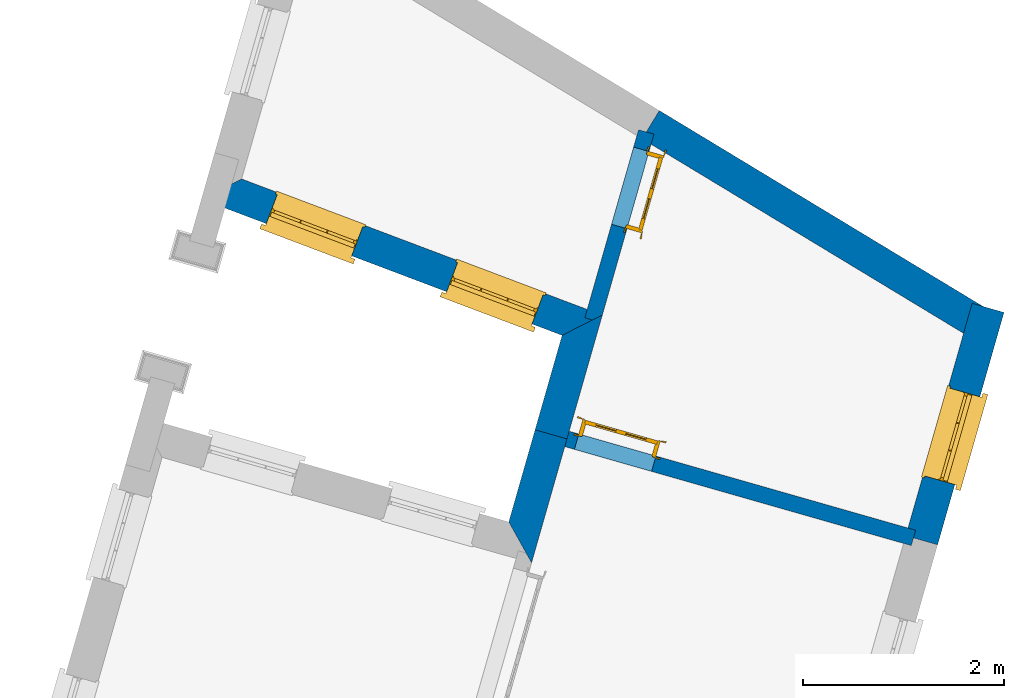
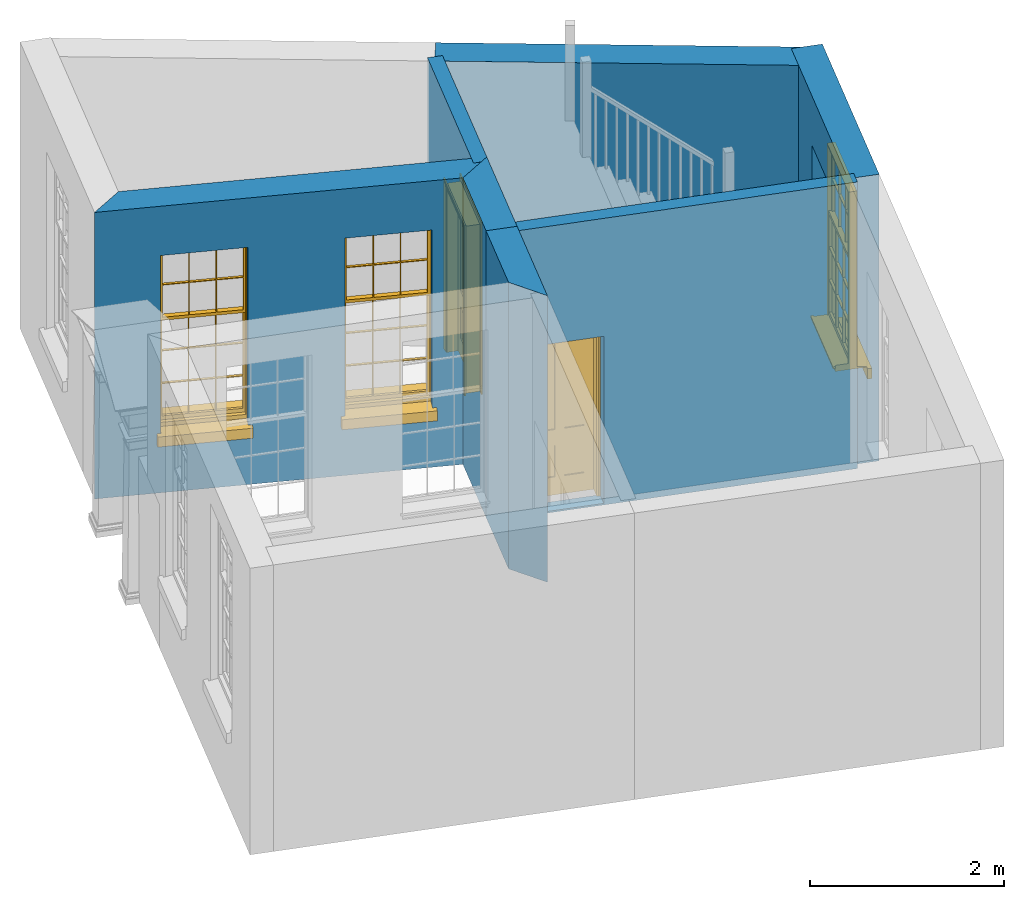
# One storey, part 5 of 6: 7 walls, 3 windows, 2 doors, 5 openings.
"""IFC4 building model written with IfcOpenShell, lengths in metres."""

import ifcopenshell
import ifcopenshell.guid

model = None  # the IFC model being written
_history = None  # IfcOwnerHistory: only IFC2X3 demands one
_inside = {}  # id of a spatial element -> (the spatial element, [elements in it])
_under = {}  # id of a project, library or spatial element -> (it, [spatial elements below it])
_declared = {}  # id of a project -> (the project, [libraries it declares])
_typed = {}  # id of a type object -> (the type object, [elements of that type])
_made_of = {}  # id of a material, layer set ... -> (it, [elements and type objects made of it])


def new_model(schema):
    """Start an empty IFC model of exactly this schema.

    Asked for "IFC4X3", IfcOpenShell would pick the latest addendum, in which some entities
    have other attributes; the version numbers below select the first issue.
    IFC2X3 requires an IfcOwnerHistory on every rooted entity: one is made here for all.
    """
    global model, _history
    if schema == "IFC4X3":
        model = ifcopenshell.file(schema_version=(4, 3, 0, 0))
    else:
        model = ifcopenshell.file(schema=schema)
    _inside.clear()
    _under.clear()
    _declared.clear()
    _typed.clear()
    _made_of.clear()
    _history = None
    if model.schema == "IFC2X3":
        org = make("IfcOrganization", Name="unknown")
        user = make(
            "IfcPersonAndOrganization",
            ThePerson=make("IfcPerson", FamilyName="unknown"),
            TheOrganization=org,
        )
        app = make(
            "IfcApplication",
            ApplicationDeveloper=org,
            Version="unknown",
            ApplicationFullName="unknown",
            ApplicationIdentifier="unknown",
        )
        _history = make(
            "IfcOwnerHistory",
            OwningUser=user,
            OwningApplication=app,
            ChangeAction="ADDED",
            CreationDate=0,
        )
    return model


def make(cls, **values):
    """One entity of the class cls with the attributes given. An attribute that is None is left unset."""
    return model.create_entity(
        cls, **{name: value for name, value in values.items() if value is not None}
    )


def rooted(cls, **values):
    """An entity with a GlobalId (a new one), such as an element, a storey or a relation."""
    return make(cls, GlobalId=ifcopenshell.guid.new(), OwnerHistory=_history, **values)


def si_unit(unit_type, name, prefix=None):
    """IfcSIUnit, for example si_unit("LENGTHUNIT", "METRE", prefix="MILLI")."""
    return make("IfcSIUnit", UnitType=unit_type, Prefix=prefix, Name=name)


def assignment(units):
    """IfcUnitAssignment: the units of a project."""
    return None if units is None else make("IfcUnitAssignment", Units=units)


def point(xyz):
    """IfcCartesianPoint."""
    return None if xyz is None else make("IfcCartesianPoint", Coordinates=xyz)


def direction(xyz):
    """IfcDirection."""
    return None if xyz is None else make("IfcDirection", DirectionRatios=xyz)


def frame(location, z_axis=None, x_axis=None):
    """IfcAxis2Placement3D, a coordinate frame: its origin and axes. An axis left out is left unset."""
    return make(
        "IfcAxis2Placement3D",
        Location=point(location),
        Axis=direction(z_axis),
        RefDirection=direction(x_axis),
    )


def origin():
    """The frame at (0, 0, 0) with its axes left unset."""
    return frame((0.0, 0.0, 0.0))


def origin_with_axes():
    """The frame at (0, 0, 0) with the z axis (0, 0, 1) and the x axis (1, 0, 0) written out."""
    return frame((0.0, 0.0, 0.0), z_axis=(0.0, 0.0, 1.0), x_axis=(1.0, 0.0, 0.0))


def place(relative_to, where):
    """IfcLocalPlacement: puts the frame where relative to a parent placement (None: the world)."""
    return make(
        "IfcLocalPlacement", PlacementRelTo=relative_to, RelativePlacement=where
    )


def context(
    kind, dimensions, precision=None, world=None, true_north=None, identifier=None
):
    """IfcGeometricRepresentationContext, for example the 3D "Model" context."""
    return make(
        "IfcGeometricRepresentationContext",
        ContextIdentifier=identifier,
        ContextType=kind,
        CoordinateSpaceDimension=dimensions,
        Precision=precision,
        WorldCoordinateSystem=world,
        TrueNorth=true_north,
    )


def subcontext(parent, identifier, kind, view, scale=None):
    """IfcGeometricRepresentationSubContext, for example "Body" below "Model"."""
    return make(
        "IfcGeometricRepresentationSubContext",
        ContextIdentifier=identifier,
        ContextType=kind,
        ParentContext=parent,
        TargetScale=scale,
        TargetView=view,
    )


def project(units=None, contexts=None):
    """IfcProject with its units and contexts."""
    return rooted(
        "IfcProject",
        Name="project",
        RepresentationContexts=contexts,
        UnitsInContext=assignment(units),
    )


def spatial(cls, under=None, at=None, **own):
    """A site, building, storey or space (cls), placed at a placement, below another one or the project."""
    s = rooted(cls, ObjectPlacement=at, **own)
    if under is not None:
        _under.setdefault(under.id(), (under, []))[1].append(s)
    return s


def polyline(points):
    """IfcPolyline through the points."""
    return make("IfcPolyline", Points=[point(p) for p in points])


def outline(outer, holes=None, kind="AREA"):
    """IfcArbitraryClosedProfileDef: a profile drawn as a closed curve; with holes, ...WithVoids."""
    if holes is None:
        return make("IfcArbitraryClosedProfileDef", ProfileType=kind, OuterCurve=outer)
    return make(
        "IfcArbitraryProfileDefWithVoids",
        ProfileType=kind,
        OuterCurve=outer,
        InnerCurves=holes,
    )


def extrude(swept, where, along, depth):
    """IfcExtrudedAreaSolid: the profile swept, set in the frame where, extruded along a direction by depth."""
    return make(
        "IfcExtrudedAreaSolid",
        SweptArea=swept,
        Position=where,
        ExtrudedDirection=direction(along),
        Depth=depth,
    )


def faces_of(points, faces, orient=None, outer=None):
    """IfcFace entities. A face is a list of loops; a loop is a list of indices into points, from 0.

    orient and outer hold one flag for each loop. By default every Orientation is true, the
    first loop of a face is its IfcFaceOuterBound and the others are IfcFaceBound.
    """
    made = []
    for i, loops in enumerate(faces):
        bounds = []
        for j, loop in enumerate(loops):
            is_outer = j == 0 if outer is None else outer[i][j]
            bounds.append(
                make(
                    "IfcFaceOuterBound" if is_outer else "IfcFaceBound",
                    Bound=make("IfcPolyLoop", Polygon=[points[k] for k in loop]),
                    Orientation=True if orient is None else orient[i][j],
                )
            )
        made.append(make("IfcFace", Bounds=bounds))
    return made


def faceted_brep(points, faces, orient=None, outer=None, voids=None):
    """IfcFacetedBrep: a solid bounded by flat faces; with voids (closed shells), ...WithVoids."""
    shared = [point(p) for p in points]
    hull = make("IfcClosedShell", CfsFaces=faces_of(shared, faces, orient, outer))
    if voids is None:
        return make("IfcFacetedBrep", Outer=hull)
    return make(
        "IfcFacetedBrepWithVoids",
        Outer=hull,
        Voids=[
            make(cls, CfsFaces=faces_of(shared, fs, o, b)) for cls, fs, o, b in voids
        ],
    )


def shape(context_of_items, identifier, shape_type, items):
    """IfcShapeRepresentation: the items that make up one representation, for example the "Body"."""
    return make(
        "IfcShapeRepresentation",
        ContextOfItems=context_of_items,
        RepresentationIdentifier=identifier,
        RepresentationType=shape_type,
        Items=items,
    )


def source(mapping_origin, context_of_items, identifier, shape_type, items):
    """IfcRepresentationMap: a shape defined once, which mapped items show again and again."""
    return make(
        "IfcRepresentationMap",
        MappingOrigin=mapping_origin,
        MappedRepresentation=shape(context_of_items, identifier, shape_type, items),
    )


def transform(
    local_origin,
    x_axis=None,
    y_axis=None,
    z_axis=None,
    scale=None,
    scale2=None,
    scale3=None,
    uniform=True,
):
    """IfcCartesianTransformationOperator3D, or its non-uniform kind. x_axis, y_axis, z_axis: its Axis1, 2, 3."""
    if uniform:
        return make(
            "IfcCartesianTransformationOperator3D",
            Axis1=direction(x_axis),
            Axis2=direction(y_axis),
            LocalOrigin=point(local_origin),
            Scale=scale,
            Axis3=direction(z_axis),
        )
    return make(
        "IfcCartesianTransformationOperator3DnonUniform",
        Axis1=direction(x_axis),
        Axis2=direction(y_axis),
        LocalOrigin=point(local_origin),
        Scale=scale,
        Axis3=direction(z_axis),
        Scale2=scale2,
        Scale3=scale3,
    )


def mapped(mapping_source, mapping_target):
    """IfcMappedItem: shows the shape of a source again, moved by a transform."""
    return make(
        "IfcMappedItem", MappingSource=mapping_source, MappingTarget=mapping_target
    )


def material(Name=None, Category=None):
    """IfcMaterial."""
    return make("IfcMaterial", Name=Name, Category=Category)


def layer(
    of_material, thickness, ventilated=None, Name=None, Category=None, Priority=None
):
    """IfcMaterialLayer: one layer of a wall or slab, of a material (None: an air gap)."""
    return make(
        "IfcMaterialLayer",
        Material=of_material,
        LayerThickness=thickness,
        IsVentilated=ventilated,
        Name=Name,
        Category=Category,
        Priority=Priority,
    )


def layer_set(layers, Name=None):
    """IfcMaterialLayerSet."""
    return make("IfcMaterialLayerSet", MaterialLayers=layers, LayerSetName=Name)


def layer_usage(for_layer_set, set_direction, sense, offset, extent=None):
    """IfcMaterialLayerSetUsage: how a layer set lies in its element."""
    return make(
        "IfcMaterialLayerSetUsage",
        ForLayerSet=for_layer_set,
        LayerSetDirection=set_direction,
        DirectionSense=sense,
        OffsetFromReferenceLine=offset,
        ReferenceExtent=extent,
    )


def made_of(thing, what):
    """Note that an element or type object is made of a material, layer set ...; save() writes the relation."""
    if what is not None:
        _made_of.setdefault(what.id(), (what, []))[1].append(thing)
    return thing


def type_object(cls, material=None, **own):
    """A type object (cls), such as IfcWallType, which elements share."""
    return made_of(rooted(cls, **own), material)


def type_shapes(of_type, sources):
    """Give a type object the sources (RepresentationMaps) that its elements show as mapped items."""
    of_type.RepresentationMaps = sources


def element(
    cls,
    number,
    at=None,
    inside=None,
    cuts=None,
    type_object=None,
    material=None,
    context=None,
    identifier="Body",
    shape_type=None,
    held_by="IfcProductDefinitionShape",
    body=None,
    shapes=None,
    **own,
):
    """One element of the class cls, such as IfcWall. Its Tag is "e" and its number.

    at: its placement. inside: the storey or other place that contains it. cuts: it is an
    opening in that element (IfcRelVoidsElement). A single representation is given by context,
    identifier, shape_type and body (its items); several are given by shapes. held_by: the class
    of the entity that holds the representations. save() writes the other relations.
    """
    e = rooted(cls, Tag="e%d" % number, ObjectPlacement=at, **own)
    if body is not None:
        shapes = [shape(context, identifier, shape_type, body)]
    if shapes is not None:
        e.Representation = make(held_by, Representations=shapes)
    if inside is not None:
        _inside.setdefault(inside.id(), (inside, []))[1].append(e)
    if cuts is not None:
        rooted(
            "IfcRelVoidsElement", RelatingBuildingElement=cuts, RelatedOpeningElement=e
        )
    if type_object is not None:
        _typed.setdefault(type_object.id(), (type_object, []))[1].append(e)
    return made_of(e, material)


def fill(opening, filler):
    """IfcRelFillsElement: the door or window that sits in an opening."""
    return rooted(
        "IfcRelFillsElement",
        RelatingOpeningElement=opening,
        RelatedBuildingElement=filler,
    )


def aggregate(whole, parts):
    """IfcRelAggregates: a whole, such as a stair, and the parts it consists of."""
    return rooted("IfcRelAggregates", RelatingObject=whole, RelatedObjects=parts)


def save(model, path):
    """Write the relations noted so far, then the file.

    IfcRelAggregates (storeys below a building ...), IfcRelContainedInSpatialStructure (elements
    in a storey), IfcRelDefinesByType, IfcRelAssociatesMaterial and IfcRelDeclares: one each for
    every whole, place, type object, material and project.
    """
    for whole, parts in _under.values():
        aggregate(whole, parts)
    for where, things in _inside.values():
        rooted(
            "IfcRelContainedInSpatialStructure",
            RelatedElements=things,
            RelatingStructure=where,
        )
    for kind, things in _typed.values():
        rooted("IfcRelDefinesByType", RelatedObjects=things, RelatingType=kind)
    for what, things in _made_of.values():
        rooted("IfcRelAssociatesMaterial", RelatedObjects=things, RelatingMaterial=what)
    for by, libraries in _declared.values():
        rooted("IfcRelDeclares", RelatingContext=by, RelatedDefinitions=libraries)
    model.write(path)


model = new_model("IFC4")

# Units and contexts
model_context = context("Model", 3, world=origin_with_axes())
body_context = subcontext(model_context, "Body", "Model", "MODEL_VIEW")
ifc_project = project(units=[si_unit("PLANEANGLEUNIT", "RADIAN"), si_unit("MASSUNIT", "GRAM", prefix="KILO"), si_unit("FORCEUNIT", "NEWTON", prefix="KILO"), si_unit("LENGTHUNIT", "METRE"), si_unit("AREAUNIT", "SQUARE_METRE"), si_unit("VOLUMEUNIT", "CUBIC_METRE")], contexts=[model_context, model_context])

# Sites, building, storey
site_1_placement = place(None, origin_with_axes())
site_1 = spatial("IfcSite", under=ifc_project, at=site_1_placement, Name="Tamar")
site_2_placement = place(site_1_placement, origin_with_axes())
site_2 = spatial("IfcSite", under=site_1, at=site_2_placement, Name="Site plot-19", CompositionType="ELEMENT")
building_placement = place(None, origin_with_axes())
building = spatial("IfcBuilding", under=site_2, at=building_placement, Name="Building plot-19", CompositionType="ELEMENT")
storey_placement = place(None, frame((0.0, 0.0, 26.8), z_axis=(0.0, 0.0, 1.0), x_axis=(1.0, 0.0, 0.0)))
storey = spatial("IfcBuildingStorey", under=building, at=storey_placement, Name="plot-19 0", CompositionType="ELEMENT", Elevation=26.8)

# Wall, openings, windows
ifc_material_1 = material(Name="Masonry")
ifc_layer_1 = layer(ifc_material_1, 0.33, ventilated=False)
ifc_layer_set_1 = layer_set([ifc_layer_1], Name="exterior_0.08_0.25")
ifc_layer_usage_1 = layer_usage(ifc_layer_set_1, "AXIS2", "POSITIVE", -0.25)
wall_type_1 = type_object("IfcWallType", Name="exterior_0.08_0.25", PredefinedType="SOLIDWALL", material=ifc_layer_set_1)
wall_1_placement = place(storey_placement, frame((277.125139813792, 301.7223765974, 0.0), z_axis=(0.0, 0.0, 1.0), x_axis=(0.935518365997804, -0.353278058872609, 0.0)))
wall_1 = element("IfcWall", 1, at=wall_1_placement, inside=storey, type_object=wall_type_1, material=ifc_layer_usage_1, Name="exterior", context=body_context, shape_type="SweptSolid", body=[
    extrude(outline(polyline([(0.0736260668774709, 0.0800000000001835), (-0.230081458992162, -0.249999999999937), (3.61187362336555, -0.249999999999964), (3.91558114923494, 0.0800000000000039), (0.0736260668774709, 0.0800000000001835)])), origin_with_axes(), (0.0, 0.0, 1.0), 3.6),
])
opening_1_placement = place(wall_1_placement, frame((0.460977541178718, 0.0, 0.75)))
opening_1 = element("IfcOpeningElement", 2, at=opening_1_placement, cuts=wall_1, Name="My Opening", ObjectType="Opening", context=body_context, shape_type="SweptSolid", body=[
    extrude(outline(polyline([(0.0, -0.269999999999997), (0.91000000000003, -0.269999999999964), (0.910000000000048, 1.09999999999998), (1.83186799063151e-14, 1.09999999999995), (0.0, -0.269999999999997)])), origin_with_axes(), (0.0, 0.0, 1.0), 2.23),
])
opening_2_placement = place(wall_1_placement, frame((2.38195508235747, 0.0, 0.75)))
opening_2 = element("IfcOpeningElement", 3, at=opening_2_placement, cuts=wall_1, Name="My Opening", ObjectType="Opening", context=body_context, shape_type="SweptSolid", body=[
    extrude(outline(polyline([(0.0, -0.26999999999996), (0.909999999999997, -0.270000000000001), (0.910000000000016, 1.09999999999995), (1.86517468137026e-14, 1.09999999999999), (0.0, -0.26999999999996)])), origin_with_axes(), (0.0, 0.0, 1.0), 2.23),
])
window_type = type_object("IfcWindowType", Name="sash_big_taller", PartitioningType="DOUBLE_PANEL_HORIZONTAL", PredefinedType="NOTDEFINED")
shared_shape_1 = source(origin(), body_context, "Body", "Brep", [
    faceted_brep([(0.033125, 0.145, 1.385209), (0.01, 0.145, 1.385209), (0.033125, 0.145, 1.786042), (0.876875, 0.145, 1.385209), (0.876875, 0.145, 1.786042), (0.9, 0.145, 1.385209), (0.876875, 0.145, 1.796042), (0.876875, 0.145, 2.196875), (0.9, 0.145, 2.22), (0.033125, 0.145, 2.196875), (0.033125, 0.145, 1.796042), (0.01, 0.145, 2.22), (0.876875, 0.115, 1.786042), (0.876875, 0.115, 1.385209), (0.9, 0.115, 1.347084), (0.033125, 0.115, 2.196875), (0.01, 0.115, 2.22), (0.033125, 0.115, 1.796042), (0.01, 0.115, 1.347084), (0.033125, 0.115, 1.385209), (0.033125, 0.115, 1.786042), (0.876875, 0.115, 2.196875), (0.876875, 0.115, 1.796042), (0.9, 0.115, 2.22), (0.033125, 0.145, 1.347084), (0.01, 0.145, 1.347084), (0.033125, 0.145, 0.94625), (0.876875, 0.145, 1.347084), (0.876875, 0.145, 0.94625), (0.9, 0.145, 1.347084), (0.876875, 0.145, 0.52625), (0.876875, 0.145, 0.125417), (0.9, 0.145, 0.077167), (0.033125, 0.145, 0.125417), (0.033125, 0.145, 0.52625), (0.01, 0.145, 0.077167), (-0.0425, 0.0, 0.01), (-0.0425, -0.05, 0.001667), (0.0, 0.0, 0.01), (0.9525, 0.0, 0.01), (0.91, 0.0, 0.01), (0.9525, -0.05, 0.001667), (-0.02, 0.33, 0.077167), (0.0, 0.33, 0.077167), (-0.02, 0.36, 0.077167), (0.0, 0.19, 0.077167), (0.01, 0.19, 0.077167), (0.91, 0.19, 0.077167), (0.91, 0.33, 0.077167), (0.9, 0.19, 0.077167), (0.93, 0.33, 0.077167), (0.93, 0.36, 0.077167), (0.01, 0.175, 1.385209), (0.9, 0.175, 1.385209), (0.876875, 0.175, 0.125417), (0.876875, 0.175, 0.52625), (0.9, 0.175, 0.077167), (0.876875, 0.175, 0.94625), (0.876875, 0.175, 1.347084), (0.033125, 0.175, 0.125417), (0.01, 0.175, 0.077167), (0.033125, 0.175, 0.52625), (0.033125, 0.175, 1.347084), (0.033125, 0.175, 0.94625), (-0.02, 0.33, 0.052167), (-0.02, 0.36, 0.052167), (0.93, 0.36, 0.052167), (0.93, 0.33, 0.052167), (0.91, 0.33, 0.052167), (0.0, 0.33, 0.052167), (0.91, 0.1, 0.026667), (0.0, 0.1, 0.026667), (-0.0425, -0.05, -0.123333), (0.9525, -0.05, -0.123333), (-0.0425, 0.0, -0.123333), (0.9525, 0.0, -0.123333), (0.01, 0.19, 2.22), (0.9, 0.19, 2.22), (0.0, 0.19, 2.23), (0.91, 0.19, 2.23), (0.01, 0.1, 0.077167), (0.9, 0.1, 0.077167), (0.592292, 0.145, 0.125417), (0.592292, 0.175, 0.125417), (0.317708, 0.175, 0.125417), (0.317708, 0.145, 0.125417), (0.592292, 0.145, 0.53625), (0.317708, 0.145, 0.53625), (0.317708, 0.145, 0.52625), (0.592292, 0.145, 0.52625), (0.592292, 0.175, 0.53625), (0.317708, 0.175, 0.53625), (0.592292, 0.115, 1.796042), (0.592292, 0.145, 1.796042), (0.317708, 0.145, 1.796042), (0.317708, 0.115, 1.796042), (0.317708, 0.115, 1.786042), (0.592292, 0.115, 1.786042), (0.317708, 0.145, 1.786042), (0.592292, 0.145, 1.786042), (0.602292, 0.115, 1.786042), (0.592292, 0.115, 1.385209), (0.602292, 0.115, 1.385209), (0.602292, 0.145, 1.385209), (0.592292, 0.145, 1.385209), (0.602292, 0.145, 1.786042), (0.876875, 0.145, 0.53625), (0.876875, 0.175, 0.53625), (0.602292, 0.175, 0.53625), (0.602292, 0.145, 0.53625), (0.317708, 0.175, 0.52625), (0.307708, 0.175, 0.125417), (0.307708, 0.175, 0.52625), (0.602292, 0.175, 0.52625), (0.602292, 0.175, 0.125417), (0.592292, 0.175, 0.52625), (0.307708, 0.175, 0.53625), (0.033125, 0.175, 0.53625), (0.317708, 0.175, 1.347084), (0.317708, 0.175, 0.94625), (0.307708, 0.175, 0.94625), (0.307708, 0.175, 1.347084), (0.602292, 0.175, 1.347084), (0.602292, 0.175, 0.94625), (0.592292, 0.175, 0.94625), (0.592292, 0.175, 1.347084), (0.307708, 0.145, 0.52625), (0.307708, 0.145, 0.125417), (0.307708, 0.145, 0.53625), (0.033125, 0.145, 0.53625), (0.307708, 0.145, 1.347084), (0.307708, 0.145, 0.94625), (0.592292, 0.145, 1.347084), (0.592292, 0.145, 0.94625), (0.317708, 0.145, 0.94625), (0.317708, 0.145, 1.347084), (0.602292, 0.145, 0.94625), (0.602292, 0.145, 1.347084), (0.602292, 0.145, 0.52625), (0.602292, 0.145, 0.125417), (0.307708, 0.115, 1.796042), (0.307708, 0.115, 1.786042), (0.307708, 0.115, 1.385209), (0.317708, 0.115, 1.385209), (0.317708, 0.115, 2.196875), (0.307708, 0.115, 2.196875), (0.602292, 0.115, 2.196875), (0.592292, 0.115, 2.196875), (0.602292, 0.115, 1.796042), (0.602292, 0.145, 1.796042), (0.307708, 0.145, 1.796042), (0.307708, 0.145, 2.196875), (0.317708, 0.145, 2.196875), (0.592292, 0.145, 2.196875), (0.602292, 0.145, 2.196875), (0.307708, 0.145, 1.786042), (0.317708, 0.145, 1.385209), (0.307708, 0.145, 1.385209), (0.876875, 0.175, 0.93625), (0.033125, 0.175, 0.93625), (0.033125, 0.145, 0.93625), (0.876875, 0.145, 0.93625), (0.91, 0.1, 2.23), (0.9, 0.1, 2.22), (0.01, 0.1, 2.22), (0.0, 0.1, 2.23), (0.91, 0.0, 0.0), (0.0, 0.0, 0.0), (0.91, 0.33, 0.0), (0.0, 0.33, 0.0), (0.317708, 0.145, 0.93625), (0.592292, 0.145, 0.93625), (0.317708, 0.175, 0.93625), (0.307708, 0.175, 0.93625), (0.602292, 0.175, 0.93625), (0.592292, 0.175, 0.93625), (0.307708, 0.145, 0.93625), (0.602292, 0.145, 0.93625)], [[[0, 1, 2]], [[3, 4, 5]], [[6, 7, 8]], [[9, 10, 11]], [[12, 13, 14]], [[15, 16, 17]], [[18, 19, 20]], [[21, 22, 23]], [[24, 25, 26]], [[27, 28, 29]], [[30, 31, 32]], [[33, 34, 35]], [[14, 27, 29]], [[25, 24, 18]], [[36, 37, 38]], [[39, 40, 41]], [[42, 43, 44]], [[45, 46, 43]], [[47, 48, 49]], [[50, 51, 48]], [[1, 0, 52]], [[5, 53, 3]], [[54, 55, 56]], [[57, 58, 53]], [[59, 60, 61]], [[62, 63, 52]], [[48, 43, 46, 49]], [[51, 44, 43, 48]], [[64, 42, 44, 65]], [[65, 44, 51, 66]], [[66, 51, 50, 67]], [[65, 66, 68, 69]], [[60, 56, 49, 46]], [[70, 71, 38, 40]], [[37, 41, 40, 38]], [[37, 72, 73, 41]], [[74, 75, 73, 72]], [[8, 11, 76, 77]], [[76, 78, 79, 77]], [[32, 35, 80, 81]], [[81, 80, 71, 70]], [[82, 83, 84, 85]], [[86, 87, 88, 89]], [[86, 90, 91, 87]], [[92, 93, 94, 95]], [[92, 95, 96, 97]], [[96, 98, 99, 97]], [[100, 97, 101, 102]], [[103, 104, 99, 105]], [[97, 99, 104, 101]], [[102, 103, 105, 100]], [[106, 107, 108, 109]], [[110, 84, 111, 112]], [[113, 114, 83, 115]], [[116, 112, 61, 117]], [[90, 115, 110, 91]], [[118, 119, 120, 121]], [[122, 123, 124, 125]], [[113, 108, 107, 55]], [[126, 112, 111, 127]], [[34, 61, 112, 126]], [[89, 115, 83, 82]], [[88, 110, 115, 89]], [[85, 84, 110, 88]], [[128, 116, 117, 129]], [[130, 121, 120, 131]], [[132, 125, 124, 133]], [[134, 119, 118, 135]], [[136, 123, 122, 137]], [[138, 113, 55, 30]], [[139, 114, 113, 138]], [[138, 30, 106, 109]], [[88, 126, 127, 85]], [[138, 89, 82, 139]], [[137, 132, 133, 136]], [[128, 129, 34, 126]], [[135, 130, 131, 134]], [[140, 17, 20, 141]], [[96, 141, 142, 143]], [[144, 145, 140, 95]], [[146, 147, 92, 148]], [[100, 12, 22, 148]], [[149, 6, 4, 105]], [[94, 150, 151, 152]], [[149, 93, 153, 154]], [[99, 98, 94, 93]], [[155, 2, 10, 150]], [[156, 157, 155, 98]], [[141, 155, 157, 142]], [[20, 2, 155, 141]], [[143, 156, 98, 96]], [[140, 150, 10, 17]], [[145, 151, 150, 140]], [[147, 153, 93, 92]], [[95, 94, 152, 144]], [[22, 6, 149, 148]], [[148, 149, 154, 146]], [[100, 105, 4, 12]], [[109, 86, 89, 138]], [[108, 113, 115, 90]], [[91, 110, 112, 116]], [[87, 128, 126, 88]], [[97, 100, 148, 92]], [[141, 96, 95, 140]], [[98, 155, 150, 94]], [[105, 99, 93, 149]], [[143, 101, 104, 156]], [[135, 118, 125, 132]], [[144, 152, 153, 147]], [[127, 111, 59, 33]], [[15, 9, 151, 145]], [[146, 154, 7, 21]], [[31, 54, 114, 139]], [[36, 74, 72, 37]], [[39, 41, 73, 75]], [[18, 14, 101, 143]], [[23, 16, 144, 147]], [[83, 56, 60, 84]], [[52, 53, 125, 118]], [[53, 52, 156, 104]], [[11, 8, 153, 152]], [[14, 18, 135, 132]], [[2, 1, 11, 10]], [[8, 5, 4, 6]], [[57, 53, 56, 158]], [[60, 52, 63, 159]], [[26, 25, 35, 160]], [[32, 29, 28, 161]], [[14, 23, 22, 12]], [[18, 20, 17, 16]], [[19, 0, 2, 20]], [[17, 10, 9, 15]], [[12, 4, 3, 13]], [[21, 7, 6, 22]], [[27, 58, 57, 28]], [[30, 55, 54, 31]], [[33, 59, 61, 34]], [[26, 63, 62, 24]], [[5, 8, 77, 53]], [[76, 11, 1, 52]], [[46, 45, 78, 76]], [[49, 77, 79, 47]], [[70, 162, 163, 81]], [[71, 80, 164, 165]], [[19, 142, 157, 0]], [[102, 13, 3, 103]], [[121, 130, 24, 62]], [[29, 32, 81, 14]], [[80, 35, 25, 18]], [[60, 46, 76, 52]], [[77, 49, 56, 53]], [[23, 14, 81, 163]], [[16, 164, 80, 18]], [[35, 85, 127]], [[127, 33, 35]], [[139, 82, 32]], [[32, 31, 139]], [[32, 82, 85, 35]], [[102, 101, 14]], [[14, 13, 102]], [[18, 143, 142]], [[142, 19, 18]], [[146, 21, 23]], [[23, 147, 146]], [[16, 15, 145]], [[145, 144, 16]], [[11, 152, 151]], [[151, 9, 11]], [[154, 153, 8]], [[8, 7, 154]], [[23, 163, 164, 16]], [[162, 165, 164, 163]], [[52, 118, 121]], [[121, 62, 52]], [[125, 53, 122]], [[58, 122, 53]], [[27, 137, 122, 58]], [[56, 83, 114]], [[114, 54, 56]], [[111, 84, 60]], [[60, 59, 111]], [[137, 27, 14]], [[14, 132, 137]], [[130, 135, 18]], [[18, 24, 130]], [[157, 156, 52]], [[52, 0, 157]], [[103, 3, 53]], [[53, 104, 103]], [[79, 78, 165, 162]], [[78, 45, 71, 165]], [[162, 70, 47, 79]], [[166, 75, 74, 167]], [[68, 66, 67]], [[48, 68, 67, 50]], [[69, 64, 65]], [[42, 64, 69, 43]], [[69, 68, 168, 169]], [[70, 68, 48, 47]], [[166, 168, 68, 70]], [[43, 69, 71, 45]], [[69, 169, 167, 71]], [[168, 166, 167, 169]], [[38, 167, 74, 36]], [[71, 167, 38]], [[39, 75, 166, 40]], [[40, 166, 70]], [[133, 134, 170, 171]], [[133, 124, 119, 134]], [[28, 57, 123, 136]], [[172, 91, 116, 173]], [[174, 108, 90, 175]], [[120, 173, 159, 63]], [[124, 175, 172, 119]], [[174, 123, 57, 158]], [[176, 173, 116, 128]], [[160, 159, 173, 176]], [[171, 175, 90, 86]], [[170, 172, 175, 171]], [[87, 91, 172, 170]], [[131, 120, 63, 26]], [[177, 174, 158, 161]], [[109, 108, 174, 177]], [[177, 161, 28, 136]], [[170, 176, 128, 87]], [[177, 171, 86, 109]], [[131, 26, 160, 176]], [[136, 133, 171, 177]], [[123, 174, 175, 124]], [[119, 172, 173, 120]], [[134, 131, 176, 170]], [[129, 117, 159, 160]], [[161, 158, 107, 106]], [[35, 34, 129]], [[35, 129, 160]], [[32, 106, 30]], [[32, 161, 106]], [[56, 55, 107]], [[56, 107, 158]], [[60, 117, 61]], [[60, 159, 117]]]),
])
type_shapes(window_type, [shared_shape_1])
window_1_placement = place(storey_placement, frame((277.461007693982, 301.306933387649, 0.75), z_axis=(0.0, 0.0, 1.0), x_axis=(0.851321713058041, -0.321483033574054, 0.0)))
window_1 = element("IfcWindow", 4, at=window_1_placement, inside=storey, type_object=window_type, Name="toilet outside window", OverallHeight=2.23, OverallWidth=0.91, context=body_context, shape_type="MappedRepresentation", body=[
    mapped(shared_shape_1, transform((0.0, 0.0, 0.0), scale=1.0)),
])
fill(opening_1, window_1)
window_2_placement = place(storey_placement, frame((279.258117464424, 300.628294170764, 0.75), z_axis=(0.0, 0.0, 1.0), x_axis=(0.851321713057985, -0.321483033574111, 0.0)))
window_2 = element("IfcWindow", 5, at=window_2_placement, inside=storey, type_object=window_type, Name="toilet outside window", OverallHeight=2.23, OverallWidth=0.91, context=body_context, shape_type="MappedRepresentation", body=[
    mapped(shared_shape_1, transform((0.0, 0.0, 0.0), scale=1.0)),
])
fill(opening_2, window_2)

# Walls
wall_2_placement = place(storey_placement, frame((280.719359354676, 300.365098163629, 0.0), z_axis=(0.0, 0.0, 1.0), x_axis=(-0.274568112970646, -0.961567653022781, 0.0)))
element("IfcWall", 6, at=wall_2_placement, inside=storey, type_object=wall_type_1, material=ifc_layer_usage_1, Name="exterior", context=body_context, shape_type="SweptSolid", body=[
    extrude(outline(polyline([(-0.0736260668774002, 0.0800000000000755), (0.230081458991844, -0.250000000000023), (1.20934681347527, -0.249999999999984), (1.2093468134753, 0.080000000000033), (-0.0736260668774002, 0.0800000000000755)])), origin_with_axes(), (0.0, 0.0, 1.0), 3.6),
])
wall_3_placement = place(storey_placement, frame((280.387311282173, 299.202229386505, 0.0), z_axis=(0.0, 0.0, 1.0), x_axis=(-0.274568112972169, -0.961567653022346, 0.0)))
element("IfcWall", 7, at=wall_3_placement, inside=storey, type_object=wall_type_1, material=ifc_layer_usage_1, Name="exterior", context=body_context, shape_type="SweptSolid", body=[
    extrude(outline(polyline([(-1.07022431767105e-13, 0.080000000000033), (3.8903745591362e-13, -0.249999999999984), (0.954535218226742, -0.249999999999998), (1.28453521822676, 0.0800000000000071), (-1.07022431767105e-13, 0.080000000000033)])), origin_with_axes(), (0.0, 0.0, 1.0), 3.6),
])

# Wall, opening, window
wall_4_placement = place(storey_placement, frame((283.917465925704, 298.194221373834, 0.0), z_axis=(0.0, 0.0, 1.0), x_axis=(0.274568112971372, 0.961567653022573, 0.0)))
wall_4 = element("IfcWall", 8, at=wall_4_placement, inside=storey, type_object=wall_type_1, material=ifc_layer_usage_1, Name="exterior", context=body_context, shape_type="SweptSolid", body=[
    extrude(outline(polyline([(2.95812399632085e-14, 0.079999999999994), (-5.24427298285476e-14, -0.249999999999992), (2.40808513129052, -0.249999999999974), (2.40808513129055, 0.079999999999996), (2.95812399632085e-14, 0.079999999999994)])), origin_with_axes(), (0.0, 0.0, 1.0), 3.6),
])
opening_3_placement = place(wall_4_placement, frame((0.624042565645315, 0.0, 0.75)))
opening_3 = element("IfcOpeningElement", 9, at=opening_3_placement, cuts=wall_4, Name="My Opening", ObjectType="Opening", context=body_context, shape_type="SweptSolid", body=[
    extrude(outline(polyline([(0.0, -0.270000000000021), (0.909999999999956, -0.270000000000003), (0.909999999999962, 1.10000000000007), (6.21724893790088e-15, 1.10000000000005), (0.0, -0.270000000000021)])), origin_with_axes(), (0.0, 0.0, 1.0), 2.23),
])
window_3_placement = place(storey_placement, frame((284.348431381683, 298.720147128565, 0.75), z_axis=(0.0, 0.0, 1.0), x_axis=(0.249856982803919, 0.875026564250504, 0.0)))
window_3 = element("IfcWindow", 10, at=window_3_placement, inside=storey, type_object=window_type, Name="circulation street window", OverallHeight=2.23, OverallWidth=0.91, context=body_context, shape_type="MappedRepresentation", body=[
    mapped(shared_shape_1, transform((0.0, 0.0, 0.0), scale=1.0)),
])
fill(opening_3, window_3)

# Wall
ifc_material_2 = material(Name="Masonry")
ifc_layer_2 = layer(ifc_material_2, 0.33, ventilated=False)
ifc_layer_set_2 = layer_set([ifc_layer_2], Name="party_0.08_0.25")
ifc_layer_usage_2 = layer_usage(ifc_layer_set_2, "AXIS2", "POSITIVE", -0.25)
wall_type_2 = type_object("IfcWallType", Name="party_0.08_0.25", PredefinedType="SOLIDWALL", material=ifc_layer_set_2)
wall_5_placement = place(storey_placement, frame((284.510007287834, 300.269366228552, 0.0), z_axis=(0.0, 0.0, 1.0), x_axis=(-0.85556747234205, 0.517691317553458, 0.0)))
element("IfcWall", 11, at=wall_5_placement, inside=storey, type_object=wall_type_2, material=ifc_layer_usage_2, Name="party", context=body_context, shape_type="SweptSolid", body=[
    extrude(outline(polyline([(-5.8215518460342e-15, 0.0799999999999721), (-9.58812107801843e-15, -0.250000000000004), (3.80508354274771, -0.250000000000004), (3.80508354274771, 0.0799999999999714), (-5.8215518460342e-15, 0.0799999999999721)])), origin_with_axes(), (0.0, 0.0, 1.0), 3.6),
])

# Wall, opening, door
ifc_material_3 = material(Name="Masonry")
ifc_layer_3 = layer(ifc_material_3, 0.16, ventilated=False)
ifc_layer_set_3 = layer_set([ifc_layer_3], Name="interior_0.08_0.08")
ifc_layer_usage_3 = layer_usage(ifc_layer_set_3, "AXIS2", "POSITIVE", -0.08)
wall_type_3 = type_object("IfcWallType", Name="interior_0.08_0.08", PredefinedType="SOLIDWALL", material=ifc_layer_set_3)
wall_6_placement = place(storey_placement, frame((281.254501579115, 302.239224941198, 0.0), z_axis=(0.0, 0.0, 1.0), x_axis=(-0.274568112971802, -0.961567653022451, 0.0)))
wall_6 = element("IfcWall", 12, at=wall_6_placement, inside=storey, type_object=wall_type_3, material=ifc_layer_usage_3, Name="interior", context=body_context, shape_type="SweptSolid", body=[
    extrude(outline(polyline([(-6.19641756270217e-15, 0.079999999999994), (6.186620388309e-15, -0.079999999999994), (1.94903267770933, -0.0799999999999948), (1.94903267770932, 0.0799999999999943), (-6.19641756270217e-15, 0.079999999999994)])), origin_with_axes(), (0.0, 0.0, 1.0), 3.6),
])
opening_4_placement = place(wall_6_placement, frame((0.180000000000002, 0.0, 0.0199999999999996)))
opening_4 = element("IfcOpeningElement", 13, at=opening_4_placement, cuts=wall_6, Name="My Opening", ObjectType="Opening", context=body_context, shape_type="SweptSolid", body=[
    extrude(outline(polyline([(0.0, -0.100000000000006), (0.80000000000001, -0.0999999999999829), (0.799999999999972, 1.09999999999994), (-3.7997383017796e-14, 1.09999999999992), (0.0, -0.100000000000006)])), origin_with_axes(), (0.0, 0.0, 1.0), 2.1),
])
door_type = type_object("IfcDoorType", Name="door_inside", OperationType="SINGLE_SWING_LEFT", PredefinedType="NOTDEFINED")
shared_shape_2 = source(origin(), body_context, "Body", "Brep", [
    faceted_brep([(0.773, 0.33, 1.895), (0.66, 0.33, 1.895), (0.66, 0.33, 2.073), (0.773, 0.33, 2.073), (0.773, 0.33, 0.82), (0.66, 0.33, 0.82), (0.45, 0.33, 1.895), (0.45, 0.33, 2.073), (0.773, 0.33, 0.62), (0.66, 0.33, 0.62), (0.66, 0.315, 0.82), (0.66, 0.315, 1.895), (0.45, 0.315, 1.895), (0.35, 0.33, 1.895), (0.35, 0.33, 2.073), (0.773, 0.33, 0.225), (0.66, 0.33, 0.225), (0.45, 0.33, 0.62), (0.45, 0.33, 0.82), (0.45, 0.315, 0.82), (0.35, 0.33, 0.82), (0.14, 0.33, 2.073), (0.14, 0.33, 1.895), (0.773, 0.33, 0.0), (0.66, 0.33, 0.0), (0.66, 0.315, 0.225), (0.66, 0.315, 0.62), (0.45, 0.315, 0.62), (0.35, 0.33, 0.62), (0.35, 0.315, 0.82), (0.35, 0.315, 1.895), (0.14, 0.315, 1.895), (0.027, 0.33, 2.073), (0.027, 0.33, 1.895), (0.773, 0.292, 0.0), (0.66, 0.292, 0.0), (0.45, 0.33, 0.0), (0.45, 0.33, 0.225), (0.45, 0.315, 0.225), (0.35, 0.33, 0.225), (0.14, 0.33, 0.82), (0.14, 0.33, 0.62), (0.14, 0.315, 0.82), (0.027, 0.33, 0.82), (0.773, 0.292, 0.225), (0.66, 0.292, 0.225), (0.45, 0.292, 0.0), (0.35, 0.33, 0.0), (0.35, 0.315, 0.225), (0.35, 0.315, 0.62), (0.14, 0.315, 0.62), (0.027, 0.33, 0.62), (0.773, 0.292, 0.62), (0.66, 0.292, 0.62), (0.45, 0.292, 0.225), (0.35, 0.292, 0.0), (0.14, 0.33, 0.225), (0.14, 0.33, 0.0), (0.14, 0.315, 0.225), (0.027, 0.33, 0.225), (0.773, 0.292, 0.82), (0.66, 0.292, 0.82), (0.66, 0.307, 0.62), (0.66, 0.307, 0.225), (0.45, 0.307, 0.225), (0.35, 0.292, 0.225), (0.14, 0.292, 0.0), (0.027, 0.33, 0.0), (0.773, 0.292, 1.895), (0.66, 0.292, 1.895), (0.45, 0.292, 0.62), (0.45, 0.292, 0.82), (0.45, 0.307, 0.62), (0.35, 0.292, 0.62), (0.14, 0.292, 0.225), (0.027, 0.292, 0.0), (0.773, 0.292, 2.073), (0.66, 0.292, 2.073), (0.66, 0.307, 1.895), (0.66, 0.307, 0.82), (0.45, 0.307, 0.82), (0.35, 0.292, 0.82), (0.35, 0.307, 0.62), (0.35, 0.307, 0.225), (0.14, 0.307, 0.225), (0.027, 0.292, 0.225), (0.45, 0.292, 1.895), (0.45, 0.292, 2.073), (0.45, 0.307, 1.895), (0.35, 0.292, 1.895), (0.14, 0.292, 0.82), (0.14, 0.292, 0.62), (0.14, 0.307, 0.62), (0.027, 0.292, 0.62), (0.35, 0.292, 2.073), (0.35, 0.307, 1.895), (0.35, 0.307, 0.82), (0.14, 0.307, 0.82), (0.027, 0.292, 0.82), (0.14, 0.292, 2.073), (0.14, 0.292, 1.895), (0.14, 0.307, 1.895), (0.027, 0.292, 1.895), (0.027, 0.292, 2.073), (0.02, 0.335, 0.0), (0.005, 0.34, 0.0), (0.005, 0.34, 2.095), (0.02, 0.335, 2.08), (0.02, 0.33, 0.0), (0.0, 0.335, 0.0), (0.0, 0.335, 2.1), (0.795, 0.34, 2.095), (0.78, 0.335, 2.08), (0.02, 0.33, 2.08), (0.0, 0.33, 0.0), (-0.032, 0.345, 0.0), (-0.032, 0.345, 2.132), (0.8, 0.335, 2.1), (0.795, 0.34, 0.0), (0.78, 0.335, 0.0), (0.78, 0.33, 2.08), (0.04, 0.29, 0.0), (0.025, 0.29, 0.0), (0.025, 0.29, 2.075), (0.04, 0.29, 2.06), (-0.04, 0.34, 0.0), (-0.04, 0.34, 2.14), (0.832, 0.345, 2.132), (0.8, 0.335, 0.0), (0.78, 0.33, 0.0), (0.8, 0.33, 0.0), (0.86, 0.33, 0.0), (0.86, 0.33, 2.16), (0.8, 0.33, 2.1), (-0.06, 0.33, 2.16), (0.0, 0.33, 2.1), (-0.06, 0.33, 0.0), (-0.04, 0.345, 0.0), (-0.04, 0.345, 2.14), (0.84, 0.34, 2.14), (0.832, 0.345, 0.0), (0.84, 0.34, 0.0), (0.86, 0.345, 0.0), (0.86, 0.345, 2.16), (-0.06, 0.345, 2.16), (-0.06, 0.345, 0.0), (0.84, 0.345, 0.0), (0.84, 0.345, 2.14), (-0.025, 0.155, 0.0), (-0.025, 0.16, 0.0), (-0.025, 0.16, 2.125), (-0.025, 0.155, 2.125), (-0.017, 0.155, 0.0), (-0.017, 0.155, 2.117), (0.825, 0.16, 2.125), (0.825, 0.155, 2.125), (0.825, 0.155, 0.0), (0.845, 0.155, 0.0), (-0.045, 0.155, 2.145), (-0.045, 0.155, 0.0), (0.845, 0.155, 2.145), (0.015, 0.165, 0.0), (0.015, 0.165, 2.085), (0.817, 0.155, 2.117), (0.825, 0.16, 0.0), (0.845, 0.17, 0.0), (0.845, 0.17, 2.145), (-0.045, 0.17, 2.145), (-0.045, 0.17, 0.0), (0.02, 0.16, 0.0), (0.02, 0.16, 2.08), (0.785, 0.165, 2.085), (0.817, 0.155, 0.0), (0.8, 0.17, 0.0), (0.8, 0.17, 2.1), (0.0, 0.17, 2.1), (0.0, 0.17, 0.0), (0.035, 0.165, 0.0), (0.035, 0.165, 2.065), (0.78, 0.16, 2.08), (0.785, 0.165, 0.0), (0.775, 0.29, 2.075), (0.76, 0.29, 2.06), (0.035, 0.17, 2.065), (0.035, 0.17, 0.0), (0.765, 0.165, 2.065), (0.78, 0.16, 0.0), (0.765, 0.17, 0.0), (0.765, 0.17, 2.065), (0.765, 0.165, 0.0), (0.04, 0.17, 2.06), (0.04, 0.17, 0.0), (0.76, 0.17, 2.06), (0.76, 0.17, 0.0), (0.76, 0.29, 0.0), (0.775, 0.29, 0.0), (0.025, 0.33, 0.0), (0.025, 0.33, 2.075), (0.775, 0.33, 0.0), (0.775, 0.33, 2.075)], [[[0, 1, 2, 3]], [[1, 0, 4, 5]], [[1, 6, 7, 2]], [[8, 9, 5, 4]], [[1, 5, 10, 11]], [[6, 1, 11, 12]], [[6, 13, 14, 7]], [[15, 16, 9, 8]], [[9, 17, 18, 5]], [[5, 18, 19, 10]], [[10, 19, 12, 11]], [[18, 6, 12, 19]], [[18, 20, 13, 6]], [[21, 14, 13, 22]], [[23, 24, 16, 15]], [[9, 16, 25, 26]], [[17, 9, 26, 27]], [[17, 28, 20, 18]], [[13, 20, 29, 30]], [[22, 13, 30, 31]], [[32, 21, 22, 33]], [[34, 35, 24, 23]], [[24, 36, 37, 16]], [[16, 37, 38, 25]], [[25, 38, 27, 26]], [[37, 17, 27, 38]], [[37, 39, 28, 17]], [[40, 20, 28, 41]], [[20, 40, 42, 29]], [[31, 30, 29, 42]], [[40, 22, 31, 42]], [[33, 22, 40, 43]], [[35, 34, 44, 45]], [[35, 46, 36, 24]], [[36, 47, 39, 37]], [[28, 39, 48, 49]], [[41, 28, 49, 50]], [[43, 40, 41, 51]], [[45, 44, 52, 53]], [[46, 35, 45, 54]], [[46, 55, 47, 36]], [[56, 39, 47, 57]], [[39, 56, 58, 48]], [[50, 49, 48, 58]], [[56, 41, 50, 58]], [[51, 41, 56, 59]], [[53, 52, 60, 61]], [[45, 53, 62, 63]], [[54, 45, 63, 64]], [[55, 46, 54, 65]], [[55, 66, 57, 47]], [[59, 56, 57, 67]], [[61, 60, 68, 69]], [[70, 53, 61, 71]], [[53, 70, 72, 62]], [[72, 64, 63, 62]], [[70, 54, 64, 72]], [[65, 54, 70, 73]], [[65, 74, 66, 55]], [[67, 57, 66, 75]], [[69, 68, 76, 77]], [[61, 69, 78, 79]], [[71, 61, 79, 80]], [[73, 70, 71, 81]], [[65, 73, 82, 83]], [[74, 65, 83, 84]], [[74, 85, 75, 66]], [[86, 69, 77, 87]], [[69, 86, 88, 78]], [[88, 80, 79, 78]], [[86, 71, 80, 88]], [[81, 71, 86, 89]], [[73, 81, 90, 91]], [[73, 91, 92, 82]], [[83, 82, 92, 84]], [[91, 74, 84, 92]], [[91, 93, 85, 74]], [[89, 86, 87, 94]], [[81, 89, 95, 96]], [[90, 81, 96, 97]], [[90, 98, 93, 91]], [[94, 99, 100, 89]], [[89, 100, 101, 95]], [[101, 97, 96, 95]], [[100, 90, 97, 101]], [[100, 102, 98, 90]], [[99, 103, 102, 100]], [[32, 103, 99, 21]], [[102, 103, 32, 33]], [[98, 102, 33, 43]], [[21, 99, 94, 14]], [[94, 87, 7, 14]], [[7, 87, 77, 2]], [[76, 3, 2, 77]], [[43, 51, 93, 98]], [[51, 59, 85, 93]], [[67, 75, 85, 59]], [[34, 23, 15, 44]], [[44, 15, 8, 52]], [[52, 8, 4, 60]], [[0, 68, 60, 4]], [[0, 3, 76, 68]], [[104, 105, 106, 107]], [[104, 108, 109, 105]], [[105, 109, 110, 106]], [[107, 106, 111, 112]], [[107, 113, 108, 104]], [[114, 109, 108]], [[109, 115, 116, 110]], [[106, 110, 117, 111]], [[112, 111, 118, 119]], [[113, 107, 112, 120]], [[121, 122, 123, 124]], [[115, 109, 114, 125]], [[115, 125, 126, 116]], [[110, 116, 127, 117]], [[111, 117, 128, 118]], [[118, 128, 129, 119]], [[120, 112, 119, 129]], [[130, 129, 128]], [[130, 131, 132, 133]], [[133, 132, 134, 135]], [[135, 134, 136, 114]], [[136, 125, 114]], [[125, 137, 138, 126]], [[116, 126, 139, 127]], [[117, 127, 140, 128]], [[141, 130, 128, 140]], [[131, 130, 141]], [[131, 142, 143, 132]], [[132, 143, 144, 134]], [[134, 144, 145, 136]], [[137, 125, 136, 145]], [[143, 142, 146]], [[143, 146, 147]], [[137, 145, 144]], [[143, 147, 138]], [[138, 137, 144]], [[143, 138, 144]], [[126, 138, 147, 139]], [[127, 139, 141, 140]], [[142, 131, 141, 146]], [[139, 147, 146, 141]], [[148, 149, 150, 151]], [[149, 152, 153, 150]], [[151, 150, 154, 155]], [[155, 156, 157]], [[158, 159, 148]], [[158, 148, 151]], [[155, 157, 160]], [[158, 151, 155]], [[155, 160, 158]], [[152, 161, 162, 153]], [[150, 153, 163, 154]], [[155, 154, 164, 156]], [[156, 164, 165, 157]], [[157, 165, 166, 160]], [[160, 166, 167, 158]], [[158, 167, 168, 159]], [[161, 169, 170, 162]], [[153, 162, 171, 163]], [[154, 163, 172, 164]], [[165, 164, 173]], [[165, 173, 174, 166]], [[166, 174, 175, 167]], [[167, 175, 176, 168]], [[169, 177, 178, 170]], [[162, 170, 179, 171]], [[163, 171, 180, 172]], [[172, 180, 173, 164]], [[124, 123, 181, 182]], [[183, 178, 177, 184]], [[170, 178, 185, 179]], [[171, 179, 186, 180]], [[187, 173, 180]], [[185, 188, 187, 189]], [[188, 185, 178, 183]], [[179, 185, 189, 186]], [[189, 187, 180, 186]], [[190, 183, 184, 191]], [[192, 188, 183, 190]], [[191, 184, 122, 121]], [[124, 190, 191, 121]], [[193, 187, 188, 192]], [[182, 192, 190, 124]], [[184, 176, 122]], [[194, 195, 187, 193]], [[192, 182, 194, 193]], [[161, 176, 184]], [[114, 108, 122, 176]], [[173, 187, 195]], [[152, 149, 176, 161]], [[169, 161, 184, 177]], [[196, 122, 108]], [[176, 175, 135, 114]], [[173, 195, 129, 130]], [[176, 149, 168]], [[123, 122, 196, 197]], [[196, 108, 113, 197]], [[175, 174, 133, 135]], [[198, 129, 195]], [[133, 174, 173, 130]], [[159, 168, 149, 148]], [[181, 123, 197, 199]], [[197, 113, 120, 199]], [[199, 120, 129, 198]], [[195, 181, 199, 198]], [[195, 194, 182, 181]]]),
])
type_shapes(door_type, [shared_shape_2])
door_1_placement = place(storey_placement, frame((281.108922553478, 302.093599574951, 0.0199999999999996), z_axis=(0.0, 0.0, 1.0), x_axis=(-0.219654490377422, -0.769254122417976, 0.0)))
door_1 = element("IfcDoor", 14, at=door_1_placement, inside=storey, type_object=door_type, Name="toilet inside door", OverallHeight=2.1, OverallWidth=0.8, context=body_context, shape_type="MappedRepresentation", body=[
    mapped(shared_shape_2, transform((0.0, 0.0, 0.0), scale=1.0)),
])
fill(opening_4, door_1)

wall_7_placement = place(storey_placement, frame((280.387311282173, 299.202229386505, 0.0), z_axis=(0.0, 0.0, 1.0), x_axis=(0.961567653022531, -0.274568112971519, 0.0)))
wall_7 = element("IfcWall", 15, at=wall_7_placement, inside=storey, type_object=wall_type_3, material=ifc_layer_usage_3, Name="interior", context=body_context, shape_type="SweptSolid", body=[
    extrude(outline(polyline([(1.73954320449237e-14, 0.079999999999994), (-1.73519385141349e-14, -0.079999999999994), (3.6712493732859, -0.0799999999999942), (3.67124937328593, 0.0799999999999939), (1.73954320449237e-14, 0.079999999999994)])), origin_with_axes(), (0.0, 0.0, 1.0), 3.6),
])
opening_5_placement = place(wall_7_placement, frame((0.180000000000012, 0.0, 0.0199999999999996)))
opening_5 = element("IfcOpeningElement", 16, at=opening_5_placement, cuts=wall_7, Name="My Opening", ObjectType="Opening", context=body_context, shape_type="SweptSolid", body=[
    extrude(outline(polyline([(0.0, -0.0999999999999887), (0.800000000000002, -0.0999999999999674), (0.800000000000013, 1.09999999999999), (1.11022302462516e-14, 1.09999999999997), (0.0, -0.0999999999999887)])), origin_with_axes(), (0.0, 0.0, 1.0), 2.1),
])
door_2_placement = place(storey_placement, frame((280.53293664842, 299.056650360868, 0.0199999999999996), z_axis=(0.0, 0.0, 1.0), x_axis=(0.769254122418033, -0.219654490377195, 0.0)))
door_2 = element("IfcDoor", 17, at=door_2_placement, inside=storey, type_object=door_type, Name="living inside door", OverallHeight=2.1, OverallWidth=0.8, context=body_context, shape_type="MappedRepresentation", body=[
    mapped(shared_shape_2, transform((0.0, 0.0, 0.0), scale=1.0)),
])
fill(opening_5, door_2)

save(model, "model.ifc")
